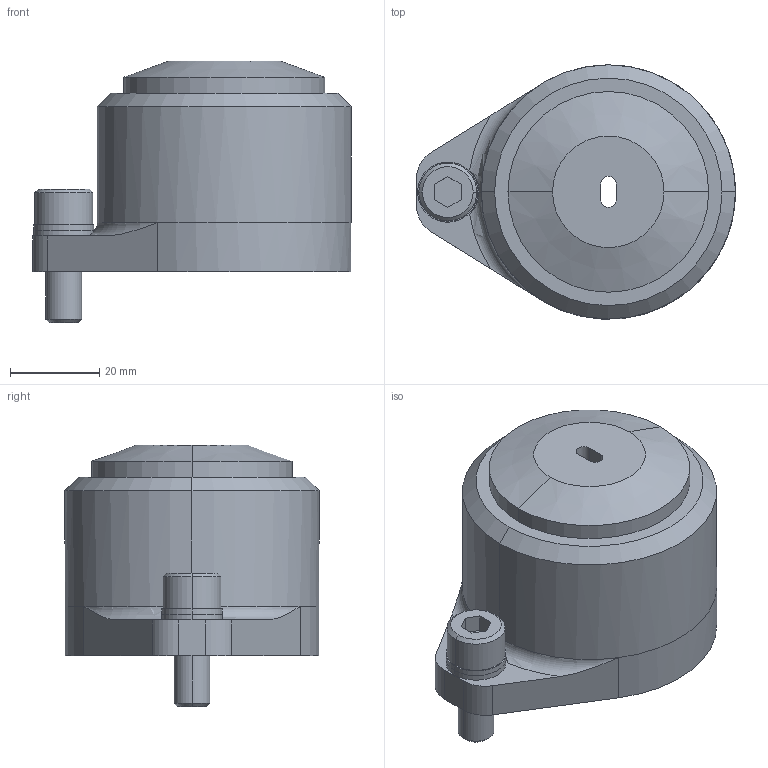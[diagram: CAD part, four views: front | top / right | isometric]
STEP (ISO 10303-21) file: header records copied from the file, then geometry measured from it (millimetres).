
FILE_DESCRIPTION(/* description */ (''),/* implementation_level */ '2;1');
FILE_NAME(/* name */ '3d_spre20-g-p7.00-w3.50-k0_05424_r00.stp',/* time_stamp */ '2011-01-10T14:10:06+09:00',/* author */ ('MISUMI'),/* organization */ (''),/* preprocessor_version */ 'ST-DEVELOPER v11',/* originating_system */ 'UGS - NX 5.0',/* authorisation */ '');
FILE_SCHEMA (('CONFIG_CONTROL_DESIGN'));
Length unit declared in the file: millimetre
Products named in the file (1): 3d_spre20-g-p7.00-w3.50-k0_05424_r00
Bounding box: 71.5 x 57 x 58.7 mm (x, y, z)
Volume: 98464.8 mm3; surface area: 38771.8 mm2
Topology: 6 solids, 6 shells, 76 faces, 170 edges, 110 vertices
Faces by surface type: cylinder 38, plane 28, cone 8, torus 2
Entity records: 2254 total; most frequent: DIRECTION 408, CARTESIAN_POINT 377, ORIENTED_EDGE 340, EDGE_CURVE 170, AXIS2_PLACEMENT_3D 165, VERTEX_POINT 110, EDGE_LOOP 92, CIRCLE 88
